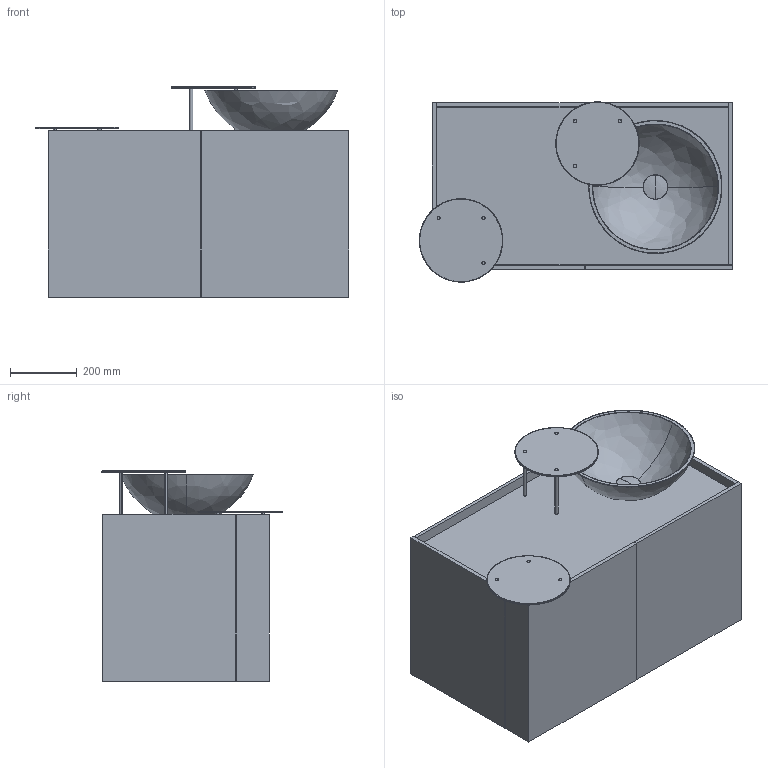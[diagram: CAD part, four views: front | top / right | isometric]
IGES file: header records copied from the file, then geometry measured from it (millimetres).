
Start section: SolidWorks IGES file using analytic representation for surfaces
Global section: file name: C:\DOCUMENTI_UT\030_PRODUZIONE MAKRO\SW\MOBILI_LAVABO\TENDER\Makro_Tender 900.IGS; native system: SolidWorks 2012; preprocessor: SolidWorks 2012; author: TECNICO; date: 160526.151048; units: millimetre
Bounding box: 939.2 x 540.14 x 631 mm (x, y, z)
Surface area: 6352486.6 mm2 (no closed solid volume)
Topology: 0 solids, 0 shells, 238 faces, 3578 edges, 3576 vertices
Faces by surface type: bspline 163, revolution 75
